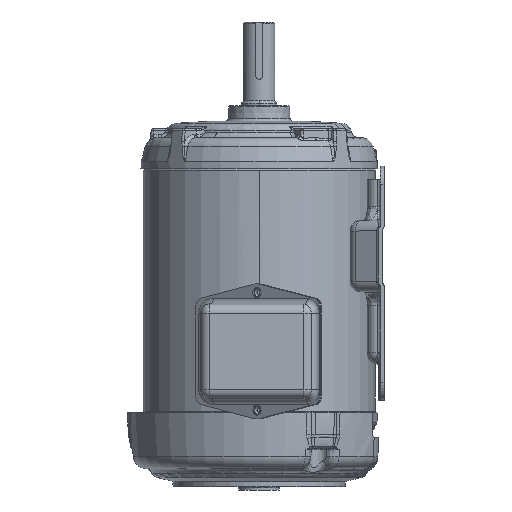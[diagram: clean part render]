
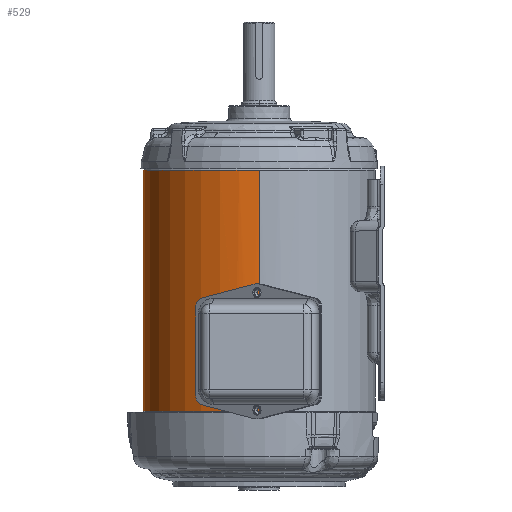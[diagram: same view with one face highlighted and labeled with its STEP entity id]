
A CAD part, left-side view. The second image highlights one B-rep face of the part: STEP entity #529.
In plain terms, the highlighted cylindrical face has radius 81.707 mm (diameter 163.413 mm), a partial arc.
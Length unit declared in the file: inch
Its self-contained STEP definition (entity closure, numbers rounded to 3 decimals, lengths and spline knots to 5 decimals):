
#2=CARTESIAN_POINT('',(-3.16715,0.563,-1.7635));
#3=CARTESIAN_POINT('',(-3.1653,0.57342,-1.7635));
#4=CARTESIAN_POINT('',(-3.16173,0.59292,-1.75998));
#5=CARTESIAN_POINT('',(-3.15656,0.61977,-1.74468));
#6=CARTESIAN_POINT('',(-3.1526,0.63953,-1.72097));
#7=CARTESIAN_POINT('',(-3.15047,0.64988,-1.69245));
#8=CARTESIAN_POINT('',(-3.15045,0.64997,-1.66188));
#9=CARTESIAN_POINT('',(-3.15258,0.6396,-1.6332));
#10=CARTESIAN_POINT('',(-3.15649,0.62016,-1.60965));
#11=CARTESIAN_POINT('',(-3.16172,0.59299,-1.594));
#12=CARTESIAN_POINT('',(-3.16529,0.57345,-1.5905));
#13=CARTESIAN_POINT('',(-3.16715,0.563,-1.5905));
#15=CARTESIAN_POINT('',(-3.16715,0.563,-1.5905));
#16=CARTESIAN_POINT('',(-3.169,0.5526,-1.5905));
#17=CARTESIAN_POINT('',(-3.17236,0.53312,-1.59402));
#18=CARTESIAN_POINT('',(-3.17673,0.50634,-1.60924));
#19=CARTESIAN_POINT('',(-3.1798,0.48654,-1.63291));
#20=CARTESIAN_POINT('',(-3.18137,0.47611,-1.66149));
#21=CARTESIAN_POINT('',(-3.18138,0.47603,-1.69219));
#22=CARTESIAN_POINT('',(-3.17981,0.48647,-1.72093));
#23=CARTESIAN_POINT('',(-3.17679,0.50596,-1.74445));
#24=CARTESIAN_POINT('',(-3.17237,0.53307,-1.76001));
#25=CARTESIAN_POINT('',(-3.169,0.55258,-1.7635));
#26=CARTESIAN_POINT('',(-3.16715,0.563,-1.7635));
#28=DIRECTION('',(0.,0.,1.));
#29=VECTOR('',#28,6.688);
#30=CARTESIAN_POINT('',(3.2168,0.,-3.333));
#31=LINE('',#30,#29);
#32=CARTESIAN_POINT('',(0.,0.,3.355));
#33=DIRECTION('',(0.,0.,1.));
#34=DIRECTION('',(1.,0.,0.));
#35=AXIS2_PLACEMENT_3D('',#32,#33,#34);
#37=CARTESIAN_POINT('',(0.,0.,3.355));
#38=DIRECTION('',(0.,0.,1.));
#39=DIRECTION('',(0.,1.,0.));
#40=AXIS2_PLACEMENT_3D('',#37,#38,#39);
#42=CARTESIAN_POINT('',(0.,0.,-1.267));
#43=DIRECTION('',(0.,0.,1.));
#44=DIRECTION('',(-0.996,0.089,0.));
#45=AXIS2_PLACEMENT_3D('',#42,#43,#44);
#47=CARTESIAN_POINT('',(-3.19056,0.41,-1.392));
#48=CARTESIAN_POINT('',(-3.19056,0.41,-1.3825));
#49=CARTESIAN_POINT('',(-3.19084,0.40789,-1.36404));
#50=CARTESIAN_POINT('',(-3.19202,0.3986,-1.33735));
#51=CARTESIAN_POINT('',(-3.19387,0.38353,-1.31337));
#52=CARTESIAN_POINT('',(-3.19622,0.36355,-1.29342));
#53=CARTESIAN_POINT('',(-3.19885,0.33967,-1.27841));
#54=CARTESIAN_POINT('',(-3.20158,0.31295,-1.2691));
#55=CARTESIAN_POINT('',(-3.20331,0.29449,-1.267));
#56=CARTESIAN_POINT('',(-3.20415,0.285,-1.267));
#58=DIRECTION('',(0.,0.,1.));
#59=VECTOR('',#58,0.95);
#60=CARTESIAN_POINT('',(-3.19056,0.41,-2.342));
#61=LINE('',#60,#59);
#62=CARTESIAN_POINT('',(-3.20415,0.285,-2.467));
#63=CARTESIAN_POINT('',(-3.20331,0.29448,-2.467));
#64=CARTESIAN_POINT('',(-3.20158,0.31292,-2.4649));
#65=CARTESIAN_POINT('',(-3.19886,0.33955,-2.45565));
#66=CARTESIAN_POINT('',(-3.19622,0.3635,-2.44063));
#67=CARTESIAN_POINT('',(-3.19388,0.38348,-2.42068));
#68=CARTESIAN_POINT('',(-3.19202,0.39854,-2.39678));
#69=CARTESIAN_POINT('',(-3.19084,0.40789,-2.36999));
#70=CARTESIAN_POINT('',(-3.19056,0.41,-2.35151));
#71=CARTESIAN_POINT('',(-3.19056,0.41,-2.342));
#73=CARTESIAN_POINT('',(0.,0.,-2.467));
#74=DIRECTION('',(0.,0.,1.));
#75=DIRECTION('',(-0.996,0.089,0.));
#76=AXIS2_PLACEMENT_3D('',#73,#74,#75);
#78=CARTESIAN_POINT('',(0.,0.,-3.333));
#79=DIRECTION('',(0.,0.,1.));
#80=DIRECTION('',(0.,1.,0.));
#81=AXIS2_PLACEMENT_3D('',#78,#79,#80);
#83=CARTESIAN_POINT('',(0.,0.,-3.333));
#84=DIRECTION('',(0.,0.,1.));
#85=DIRECTION('',(1.,0.,0.));
#86=AXIS2_PLACEMENT_3D('',#83,#84,#85);
#230=DIRECTION('',(0.,0.,1.));
#231=VECTOR('',#230,0.866);
#232=CARTESIAN_POINT('',(-3.2168,0.,-3.333));
#233=LINE('',#232,#231);
#270=DIRECTION('',(0.,0.,1.));
#271=VECTOR('',#270,4.622);
#272=CARTESIAN_POINT('',(-3.2168,0.,-1.267));
#273=LINE('',#272,#271);
#418=VERTEX_POINT('',#2);
#419=VERTEX_POINT('',#13);
#420=CARTESIAN_POINT('',(-3.20415,0.285,-1.267));
#421=CARTESIAN_POINT('',(-3.2168,0.,-1.267));
#422=VERTEX_POINT('',#420);
#423=VERTEX_POINT('',#421);
#424=CARTESIAN_POINT('',(-3.20415,0.285,-2.467));
#425=CARTESIAN_POINT('',(-3.2168,0.,-2.467));
#426=VERTEX_POINT('',#424);
#427=VERTEX_POINT('',#425);
#428=VERTEX_POINT('',#71);
#429=CARTESIAN_POINT('',(-3.19056,0.41,-1.392));
#430=VERTEX_POINT('',#429);
#468=CARTESIAN_POINT('',(3.2168,0.,-3.333));
#469=CARTESIAN_POINT('',(3.2168,0.,3.355));
#470=VERTEX_POINT('',#468);
#471=VERTEX_POINT('',#469);
#472=CARTESIAN_POINT('',(-3.2168,0.,-3.333));
#473=VERTEX_POINT('',#472);
#474=CARTESIAN_POINT('',(-3.2168,0.,3.355));
#475=VERTEX_POINT('',#474);
#484=CARTESIAN_POINT('',(0.,3.2168,3.355));
#485=VERTEX_POINT('',#484);
#486=CARTESIAN_POINT('',(0.,3.2168,-3.333));
#487=VERTEX_POINT('',#486);
#492=CARTESIAN_POINT('',(0.,0.,-3.427));
#493=DIRECTION('',(0.,0.,1.));
#494=DIRECTION('',(1.,0.,0.));
#495=AXIS2_PLACEMENT_3D('',#492,#493,#494);
#496=CYLINDRICAL_SURFACE('',#495,3.2168);
#498=ORIENTED_EDGE('',*,*,#497,.T.);
#500=ORIENTED_EDGE('',*,*,#499,.T.);
#502=ORIENTED_EDGE('',*,*,#501,.T.);
#504=ORIENTED_EDGE('',*,*,#503,.F.);
#506=ORIENTED_EDGE('',*,*,#505,.F.);
#508=ORIENTED_EDGE('',*,*,#507,.F.);
#510=ORIENTED_EDGE('',*,*,#509,.F.);
#512=ORIENTED_EDGE('',*,*,#511,.F.);
#514=ORIENTED_EDGE('',*,*,#513,.T.);
#516=ORIENTED_EDGE('',*,*,#515,.F.);
#518=ORIENTED_EDGE('',*,*,#517,.F.);
#520=ORIENTED_EDGE('',*,*,#519,.F.);
#521=EDGE_LOOP('',(#498,#500,#502,#504,#506,#508,#510,#512,#514,#516,#518,
#520));
#522=FACE_OUTER_BOUND('',#521,.F.);
#524=ORIENTED_EDGE('',*,*,#523,.F.);
#526=ORIENTED_EDGE('',*,*,#525,.F.);
#527=EDGE_LOOP('',(#524,#526));
#528=FACE_BOUND('',#527,.F.);
#529=ADVANCED_FACE('',(#522,#528),#496,.T.);
#14=B_SPLINE_CURVE_WITH_KNOTS('',3,(#2,#3,#4,#5,#6,#7,#8,#9,#10,#11,#12,#13),
.UNSPECIFIED.,.F.,.F.,(4,1,1,1,1,1,1,1,1,4),(0.,0.11111,
0.22222,0.33333,0.44444,0.55556,
0.66667,0.77778,0.88889,1.),.UNSPECIFIED.);
#27=B_SPLINE_CURVE_WITH_KNOTS('',3,(#15,#16,#17,#18,#19,#20,#21,#22,#23,#24,#25,
#26),.UNSPECIFIED.,.F.,.F.,(4,1,1,1,1,1,1,1,1,4),(0.,0.11111,
0.22222,0.33333,0.44444,0.55556,
0.66667,0.77778,0.88889,1.),.UNSPECIFIED.);
#36=CIRCLE('',#35,3.2168);
#41=CIRCLE('',#40,3.2168);
#46=CIRCLE('',#45,3.2168);
#57=B_SPLINE_CURVE_WITH_KNOTS('',3,(#47,#48,#49,#50,#51,#52,#53,#54,#55,#56),
.UNSPECIFIED.,.F.,.F.,(4,1,1,1,1,1,1,4),(0.,0.14286,
0.28571,0.42857,0.57143,0.71429,
0.85714,1.),.UNSPECIFIED.);
#72=B_SPLINE_CURVE_WITH_KNOTS('',3,(#62,#63,#64,#65,#66,#67,#68,#69,#70,#71),
.UNSPECIFIED.,.F.,.F.,(4,1,1,1,1,1,1,4),(0.,0.14286,
0.28571,0.42857,0.57143,0.71429,
0.85714,1.),.UNSPECIFIED.);
#77=CIRCLE('',#76,3.2168);
#82=CIRCLE('',#81,3.2168);
#87=CIRCLE('',#86,3.2168);
#497=EDGE_CURVE('',#470,#471,#31,.T.);
#499=EDGE_CURVE('',#471,#485,#36,.T.);
#501=EDGE_CURVE('',#485,#475,#41,.T.);
#503=EDGE_CURVE('',#423,#475,#273,.T.);
#505=EDGE_CURVE('',#422,#423,#46,.T.);
#507=EDGE_CURVE('',#430,#422,#57,.T.);
#509=EDGE_CURVE('',#428,#430,#61,.T.);
#511=EDGE_CURVE('',#426,#428,#72,.T.);
#513=EDGE_CURVE('',#426,#427,#77,.T.);
#515=EDGE_CURVE('',#473,#427,#233,.T.);
#517=EDGE_CURVE('',#487,#473,#82,.T.);
#519=EDGE_CURVE('',#470,#487,#87,.T.);
#523=EDGE_CURVE('',#418,#419,#14,.T.);
#525=EDGE_CURVE('',#419,#418,#27,.T.);
